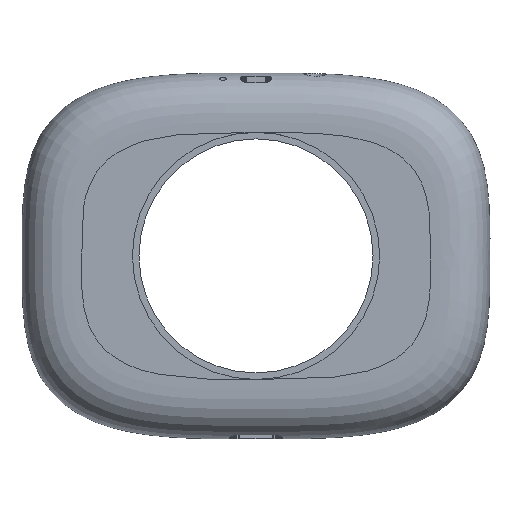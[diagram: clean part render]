
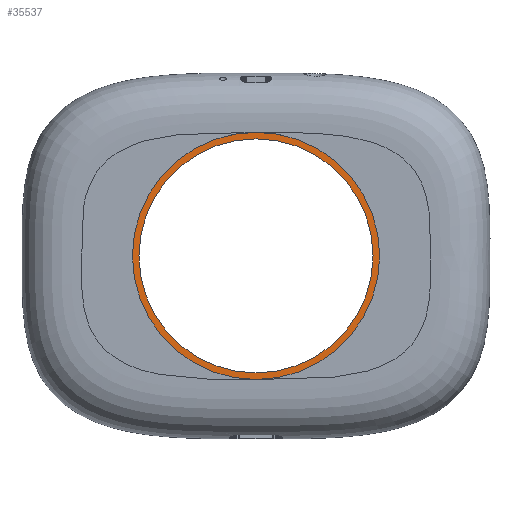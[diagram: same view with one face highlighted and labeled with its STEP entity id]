
A CAD part, top view. The second image highlights one B-rep face of the part: STEP entity #35537.
In plain terms, the highlighted planar face has unit normal (0, 0, 1).
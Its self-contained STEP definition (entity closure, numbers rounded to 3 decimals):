
#35471 = CYLINDRICAL_SURFACE('',#35472,35.5);
#35472 = AXIS2_PLACEMENT_3D('',#35473,#35474,#35475);
#35473 = CARTESIAN_POINT('',(0.,0.,36.));
#35474 = DIRECTION('',(0.,0.,1.));
#35475 = DIRECTION('',(1.,0.,-0.));
#35486 = EDGE_CURVE('',#35487,#35487,#35489,.T.);
#35487 = VERTEX_POINT('',#35488);
#35488 = CARTESIAN_POINT('',(35.5,0.,39.));
#35489 = SURFACE_CURVE('',#35490,(#35495,#35502),.PCURVE_S1.);
#35490 = CIRCLE('',#35491,35.5);
#35491 = AXIS2_PLACEMENT_3D('',#35492,#35493,#35494);
#35492 = CARTESIAN_POINT('',(0.,0.,39.));
#35493 = DIRECTION('',(0.,0.,1.));
#35494 = DIRECTION('',(1.,0.,-0.));
#35495 = PCURVE('',#35471,#35496);
#35496 = DEFINITIONAL_REPRESENTATION('',(#35497),#35501);
#35497 = LINE('',#35498,#35499);
#35498 = CARTESIAN_POINT('',(0.,3.));
#35499 = VECTOR('',#35500,1.);
#35500 = DIRECTION('',(1.,0.));
#35501 = ( GEOMETRIC_REPRESENTATION_CONTEXT(2) 
PARAMETRIC_REPRESENTATION_CONTEXT() REPRESENTATION_CONTEXT('2D SPACE',''
  ) );
#35502 = PCURVE('',#35503,#35508);
#35503 = PLANE('',#35504);
#35504 = AXIS2_PLACEMENT_3D('',#35505,#35506,#35507);
#35505 = CARTESIAN_POINT('',(0.,0.,39.));
#35506 = DIRECTION('',(0.,0.,1.));
#35507 = DIRECTION('',(1.,0.,-0.));
#35508 = DEFINITIONAL_REPRESENTATION('',(#35509),#35513);
#35509 = CIRCLE('',#35510,35.5);
#35510 = AXIS2_PLACEMENT_2D('',#35511,#35512);
#35511 = CARTESIAN_POINT('',(0.,0.));
#35512 = DIRECTION('',(1.,0.));
#35513 = ( GEOMETRIC_REPRESENTATION_CONTEXT(2) 
PARAMETRIC_REPRESENTATION_CONTEXT() REPRESENTATION_CONTEXT('2D SPACE',''
  ) );
#35537 = ADVANCED_FACE('',(#35538,#35569),#35503,.T.);
#35538 = FACE_BOUND('',#35539,.T.);
#35539 = EDGE_LOOP('',(#35540));
#35540 = ORIENTED_EDGE('',*,*,#35541,.T.);
#35541 = EDGE_CURVE('',#35542,#35542,#35544,.T.);
#35542 = VERTEX_POINT('',#35543);
#35543 = CARTESIAN_POINT('',(37.5,0.,39.));
#35544 = SURFACE_CURVE('',#35545,(#35550,#35557),.PCURVE_S1.);
#35545 = CIRCLE('',#35546,37.5);
#35546 = AXIS2_PLACEMENT_3D('',#35547,#35548,#35549);
#35547 = CARTESIAN_POINT('',(0.,0.,39.));
#35548 = DIRECTION('',(0.,0.,1.));
#35549 = DIRECTION('',(1.,0.,-0.));
#35550 = PCURVE('',#35503,#35551);
#35551 = DEFINITIONAL_REPRESENTATION('',(#35552),#35556);
#35552 = CIRCLE('',#35553,37.5);
#35553 = AXIS2_PLACEMENT_2D('',#35554,#35555);
#35554 = CARTESIAN_POINT('',(0.,0.));
#35555 = DIRECTION('',(1.,0.));
#35556 = ( GEOMETRIC_REPRESENTATION_CONTEXT(2) 
PARAMETRIC_REPRESENTATION_CONTEXT() REPRESENTATION_CONTEXT('2D SPACE',''
  ) );
#35557 = PCURVE('',#35558,#35563);
#35558 = CYLINDRICAL_SURFACE('',#35559,37.5);
#35559 = AXIS2_PLACEMENT_3D('',#35560,#35561,#35562);
#35560 = CARTESIAN_POINT('',(0.,0.,39.));
#35561 = DIRECTION('',(0.,0.,1.));
#35562 = DIRECTION('',(1.,0.,-0.));
#35563 = DEFINITIONAL_REPRESENTATION('',(#35564),#35568);
#35564 = LINE('',#35565,#35566);
#35565 = CARTESIAN_POINT('',(0.,0.));
#35566 = VECTOR('',#35567,1.);
#35567 = DIRECTION('',(1.,0.));
#35568 = ( GEOMETRIC_REPRESENTATION_CONTEXT(2) 
PARAMETRIC_REPRESENTATION_CONTEXT() REPRESENTATION_CONTEXT('2D SPACE',''
  ) );
#35569 = FACE_BOUND('',#35570,.T.);
#35570 = EDGE_LOOP('',(#35571));
#35571 = ORIENTED_EDGE('',*,*,#35486,.F.);
